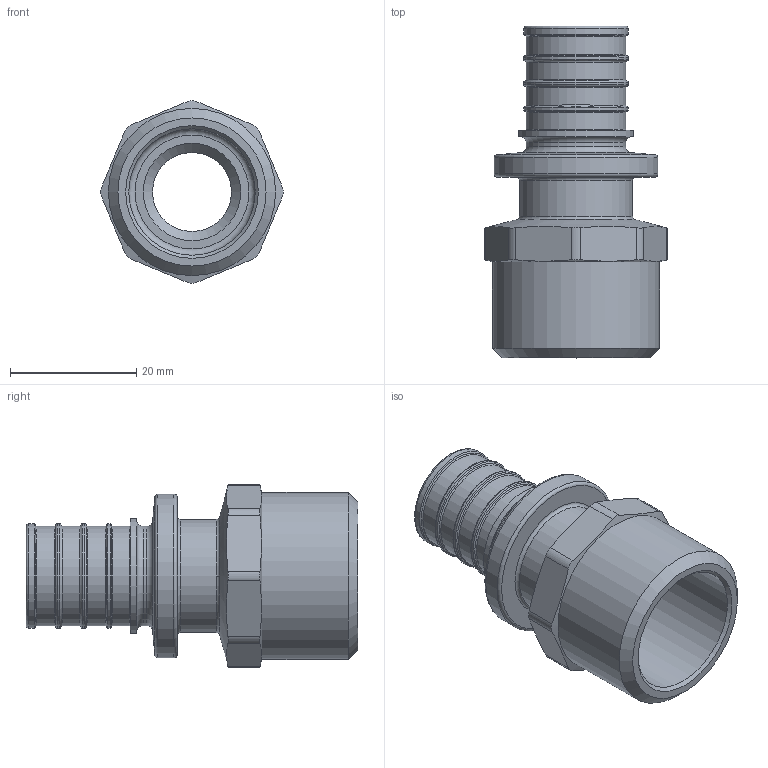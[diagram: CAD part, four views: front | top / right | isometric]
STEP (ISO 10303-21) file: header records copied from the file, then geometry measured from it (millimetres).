
FILE_DESCRIPTION(('STEP AP203'), '1');
FILE_NAME('ﾂﾐ.753137.007 - VTm.401.G.002005 ﾔ頸. 浯葢. G 3-4', '2024-01-23T12:58:46', ('IT'), ('VESTA'), 'C3D Converter', 'C3D Toolkit', '');
FILE_SCHEMA(('CONFIG_CONTROL_DESIGN'));
Length unit declared in the file: millimetre
Products named in the file (1): ВР.753137.007
Bounding box: 28.89 x 52.5 x 28.89 mm (x, y, z)
Volume: 9736.2 mm3; surface area: 7375.3 mm2
Topology: 1 solids, 1 shells, 68 faces, 149 edges, 87 vertices
Faces by surface type: torus 24, cylinder 23, plane 14, cone 7
Full cylindrical faces by diameter (mm): 12.5 x1, 15.7 x5, 16.5 x4, 17.9 x1, 18.2 x1, 20 x1, 25.9 x1, 26.441 x1
Entity records: 2807 total; most frequent: CARTESIAN_POINT 1489, DIRECTION 264, ORIENTED_EDGE 210, AXIS2_PLACEMENT_3D 124, EDGE_LOOP 118, EDGE_CURVE 105, VERTEX_POINT 87, FACE_OUTER_BOUND 82
